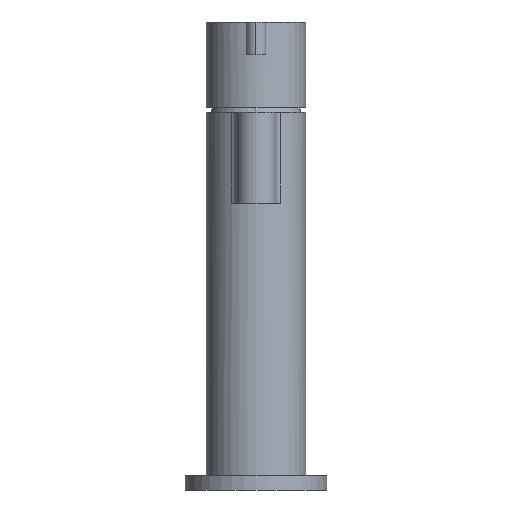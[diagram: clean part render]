
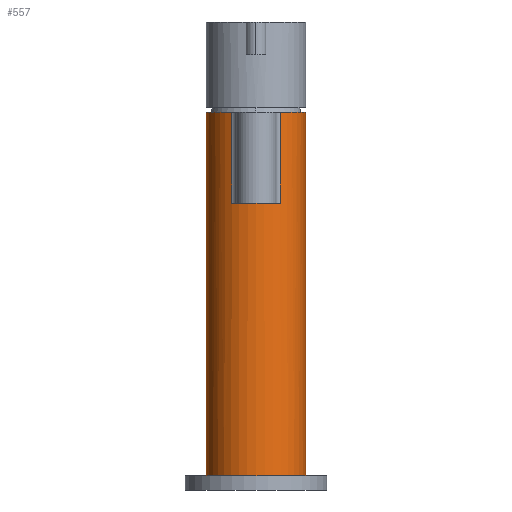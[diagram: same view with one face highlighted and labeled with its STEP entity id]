
A CAD part, front view. The second image highlights one B-rep face of the part: STEP entity #557.
In plain terms, the highlighted cylindrical face has radius 17.5 mm (diameter 35 mm), a partial arc.
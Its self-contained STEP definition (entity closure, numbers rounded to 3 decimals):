
#454 = VERTEX_POINT('',#455);
#455 = CARTESIAN_POINT('',(17.5,0.,133.));
#456 = VERTEX_POINT('',#457);
#457 = CARTESIAN_POINT('',(-17.5,0.,133.));
#464 = EDGE_CURVE('',#456,#465,#467,.T.);
#465 = VERTEX_POINT('',#466);
#466 = CARTESIAN_POINT('',(-8.537,-15.277,133.));
#467 = CIRCLE('',#468,17.5);
#468 = AXIS2_PLACEMENT_3D('',#469,#470,#471);
#469 = CARTESIAN_POINT('',(0.,0.,133.));
#470 = DIRECTION('',(0.,0.,1.));
#471 = DIRECTION('',(1.,0.,-0.));
#508 = VERTEX_POINT('',#509);
#509 = CARTESIAN_POINT('',(8.537,-15.277,133.));
#516 = EDGE_CURVE('',#508,#454,#517,.T.);
#517 = CIRCLE('',#518,17.5);
#518 = AXIS2_PLACEMENT_3D('',#519,#520,#521);
#519 = CARTESIAN_POINT('',(0.,0.,133.));
#520 = DIRECTION('',(0.,0.,1.));
#521 = DIRECTION('',(1.,0.,-0.));
#536 = VERTEX_POINT('',#537);
#537 = CARTESIAN_POINT('',(-17.5,0.,5.));
#538 = VERTEX_POINT('',#539);
#539 = CARTESIAN_POINT('',(17.5,0.,5.));
#546 = EDGE_CURVE('',#538,#536,#547,.T.);
#547 = CIRCLE('',#548,17.5);
#548 = AXIS2_PLACEMENT_3D('',#549,#550,#551);
#549 = CARTESIAN_POINT('',(0.,0.,5.));
#550 = DIRECTION('',(0.,0.,-1.));
#551 = DIRECTION('',(1.,0.,0.));
#557 = ADVANCED_FACE('',(#558),#598,.T.);
#558 = FACE_BOUND('',#559,.T.);
#559 = EDGE_LOOP('',(#560,#561,#567,#568,#576,#585,#591,#592));
#560 = ORIENTED_EDGE('',*,*,#546,.F.);
#561 = ORIENTED_EDGE('',*,*,#562,.T.);
#562 = EDGE_CURVE('',#538,#454,#563,.T.);
#563 = LINE('',#564,#565);
#564 = CARTESIAN_POINT('',(17.5,0.,133.));
#565 = VECTOR('',#566,1.);
#566 = DIRECTION('',(0.,0.,1.));
#567 = ORIENTED_EDGE('',*,*,#516,.F.);
#568 = ORIENTED_EDGE('',*,*,#569,.T.);
#569 = EDGE_CURVE('',#508,#570,#572,.T.);
#570 = VERTEX_POINT('',#571);
#571 = CARTESIAN_POINT('',(8.537,-15.277,101.));
#572 = LINE('',#573,#574);
#573 = CARTESIAN_POINT('',(8.537,-15.277,133.));
#574 = VECTOR('',#575,1.);
#575 = DIRECTION('',(0.,0.,-1.));
#576 = ORIENTED_EDGE('',*,*,#577,.T.);
#577 = EDGE_CURVE('',#570,#578,#580,.T.);
#578 = VERTEX_POINT('',#579);
#579 = CARTESIAN_POINT('',(-8.537,-15.277,101.));
#580 = CIRCLE('',#581,17.5);
#581 = AXIS2_PLACEMENT_3D('',#582,#583,#584);
#582 = CARTESIAN_POINT('',(0.,0.,101.));
#583 = DIRECTION('',(0.,0.,-1.));
#584 = DIRECTION('',(1.,0.,0.));
#585 = ORIENTED_EDGE('',*,*,#586,.T.);
#586 = EDGE_CURVE('',#578,#465,#587,.T.);
#587 = LINE('',#588,#589);
#588 = CARTESIAN_POINT('',(-8.537,-15.277,101.));
#589 = VECTOR('',#590,1.);
#590 = DIRECTION('',(0.,0.,1.));
#591 = ORIENTED_EDGE('',*,*,#464,.F.);
#592 = ORIENTED_EDGE('',*,*,#593,.T.);
#593 = EDGE_CURVE('',#456,#536,#594,.T.);
#594 = LINE('',#595,#596);
#595 = CARTESIAN_POINT('',(-17.5,0.,133.));
#596 = VECTOR('',#597,1.);
#597 = DIRECTION('',(0.,0.,-1.));
#598 = CYLINDRICAL_SURFACE('',#599,17.5);
#599 = AXIS2_PLACEMENT_3D('',#600,#601,#602);
#600 = CARTESIAN_POINT('',(0.,0.,5.));
#601 = DIRECTION('',(0.,0.,1.));
#602 = DIRECTION('',(1.,0.,-0.));
